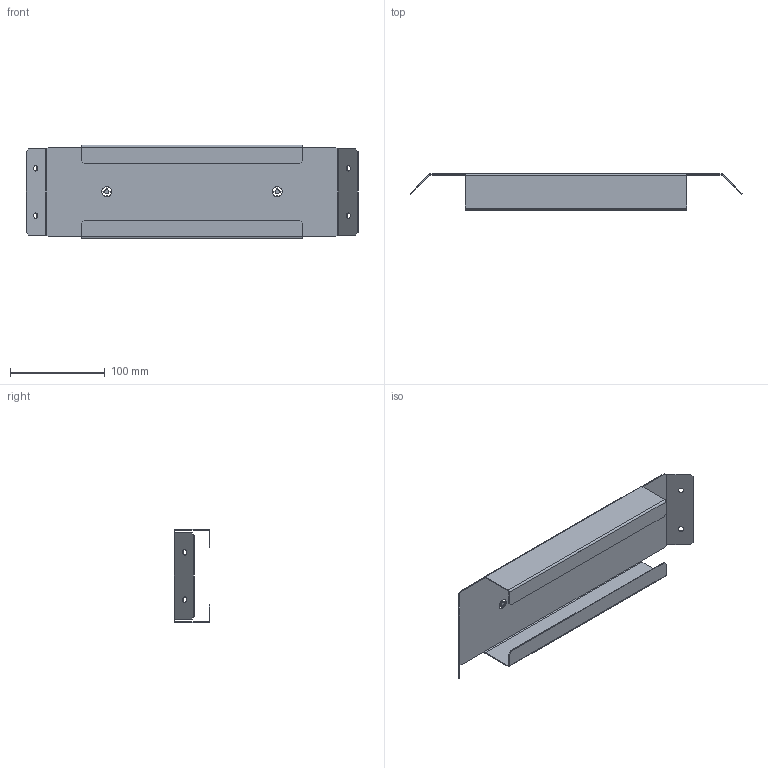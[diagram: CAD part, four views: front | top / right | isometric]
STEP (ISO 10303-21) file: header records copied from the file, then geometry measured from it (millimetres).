
FILE_DESCRIPTION (( 'STEP AP203' ), '1' );
FILE_NAME ('MA1.600.040620.20.01 Ïàíåëü öîêîëÿ Ø_Ã = 400 ìì, Â = 100 ìì.STEP', '2024-02-13T11:44:06', ( '' ), ( '' ), 'SwSTEP 2.0', 'SolidWorks 2021', '' );
FILE_SCHEMA (( 'CONFIG_CONTROL_DESIGN' ));
Length unit declared in the file: millimetre
Products named in the file (1): MA1.600.040620.20.01 Ïàíåëü öîêîëÿ Ø_Ã = 400 ìì, Â = 100 ìì
Bounding box: 350.67 x 38 x 99 mm (x, y, z)
Volume: 60634.7 mm3; surface area: 122601 mm2
Topology: 1 solids, 1 shells, 110 faces, 276 edges, 168 vertices
Faces by surface type: plane 74, cylinder 36
Entity records: 3353 total; most frequent: DIRECTION 570, CARTESIAN_POINT 555, ORIENTED_EDGE 552, EDGE_CURVE 276, VECTOR 204, LINE 204, AXIS2_PLACEMENT_3D 183, VERTEX_POINT 168
